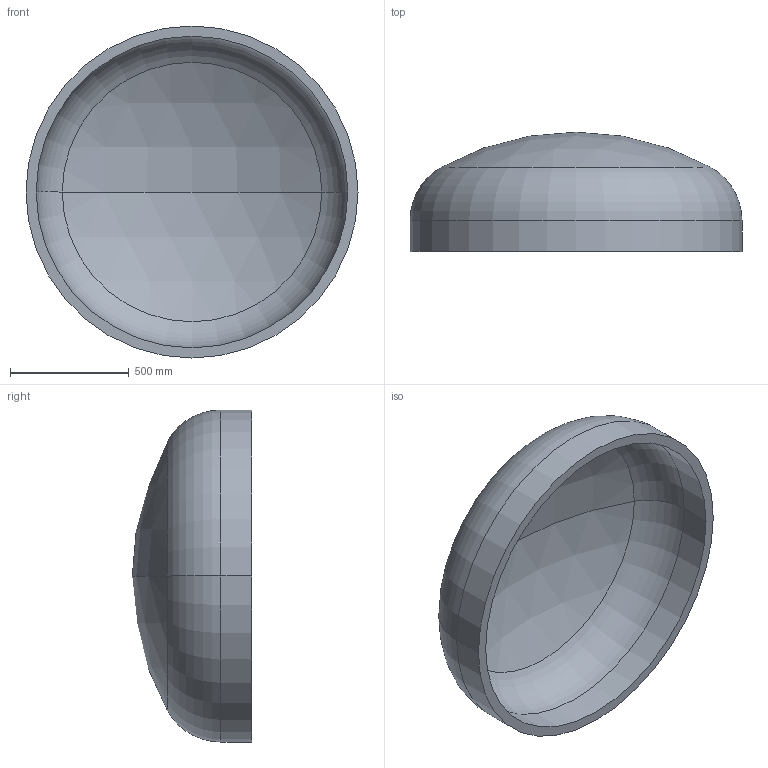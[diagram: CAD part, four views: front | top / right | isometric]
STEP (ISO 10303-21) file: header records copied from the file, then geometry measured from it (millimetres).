
FILE_DESCRIPTION (( 'STEP AP203' ), '1' );
FILE_NAME ('DIN 28013 Korbbogenform_-_Boden DIN 28013 - 1400 x 130 - I - s=43.step', '2016-07-01T10:18:21', ( '' ), ( '' ), 'SwSTEP 2.0', 'SolidWorks 2013', '' );
FILE_SCHEMA (( 'CONFIG_CONTROL_DESIGN' ));
Length unit declared in the file: millimetre
Products named in the file (1): DIN 28013 Korbbogenform_-_Boden DIN 28013 - 1400 x 130 - I - s=43
Bounding box: 1400 x 503.28 x 1400 mm (x, y, z)
Volume: 111854868.2 mm3; surface area: 5389738.2 mm2
Topology: 1 solids, 1 shells, 13 faces, 24 edges, 14 vertices
Faces by surface type: torus 4, cylinder 4, sphere 4, plane 1
Entity records: 407 total; most frequent: DIRECTION 72, CARTESIAN_POINT 52, ORIENTED_EDGE 48, AXIS2_PLACEMENT_3D 34, EDGE_CURVE 24, CIRCLE 20, VERTEX_POINT 14, EDGE_LOOP 14
